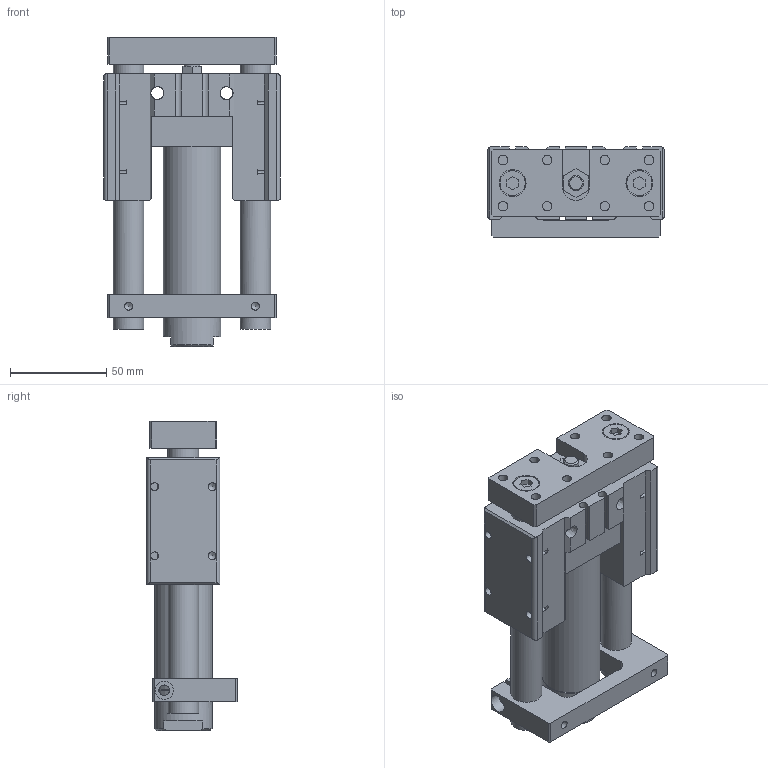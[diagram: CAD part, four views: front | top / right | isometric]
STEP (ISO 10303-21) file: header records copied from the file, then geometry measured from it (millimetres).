
FILE_DESCRIPTION((''),'2;1');
FILE_NAME('I:\3D電子目錄\氣缸\TMB(U)\TMB(U)\TMB(U)25\TMB(U)25x50.stp','2007-10-05T09:29:49',('Administrator'),(''),'Autodesk Inventor 11','Autodesk Inventor 11','');
FILE_SCHEMA(('AUTOMOTIVE_DESIGN { 1 0 10303 214 1 1 1 1 }'));
Length unit declared in the file: millimetre
Products named in the file (1): TMB(U)25
Bounding box: 92 x 47 x 161 mm (x, y, z)
Volume: 323031.3 mm3; surface area: 69549 mm2
Topology: 1 solids, 1 shells, 243 faces, 727 edges, 476 vertices
Faces by surface type: plane 149, bspline 49, cylinder 28, cone 17
Full cylindrical faces by diameter (mm): 4.134 x4, 5.5 x1, 8 x2, 9.5 x1, 13 x2, 14 x2, 16 x3, 30 x2
Entity records: 8294 total; most frequent: CARTESIAN_POINT 2323, ORIENTED_EDGE 1234, DIRECTION 1136, EDGE_CURVE 617, VERTEX_POINT 433, VECTOR 408, LINE 408, AXIS2_PLACEMENT_3D 364
